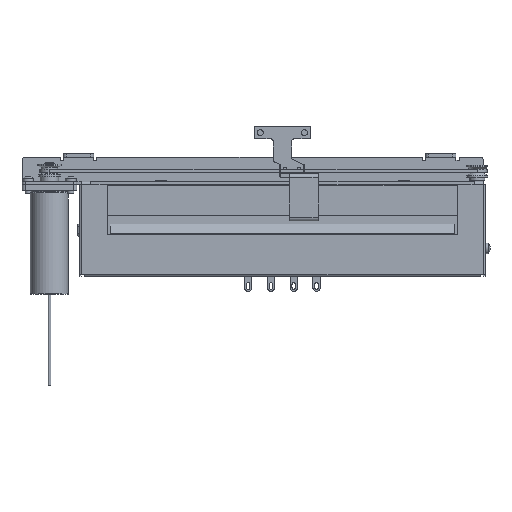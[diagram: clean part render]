
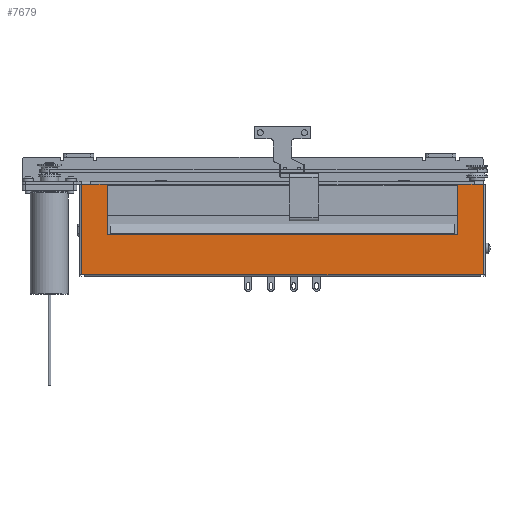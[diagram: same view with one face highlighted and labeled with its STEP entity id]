
A CAD part, front view. The second image highlights one B-rep face of the part: STEP entity #7679.
In plain terms, the highlighted planar face has unit normal (0, -1, 0).
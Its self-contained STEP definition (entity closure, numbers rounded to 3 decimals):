
#3459 = VERTEX_POINT('',#3460);
#3460 = CARTESIAN_POINT('',(-56.5,-7.5,-26.6));
#3547 = VERTEX_POINT('',#3548);
#3548 = CARTESIAN_POINT('',(56.5,-7.5,-26.6));
#4911 = VERTEX_POINT('',#4912);
#4912 = CARTESIAN_POINT('',(-57.5,-7.5,-26.6));
#4918 = EDGE_CURVE('',#3459,#4911,#4919,.T.);
#4919 = LINE('',#4920,#4921);
#4920 = CARTESIAN_POINT('',(-61.75,-7.5,-26.6));
#4921 = VECTOR('',#4922,1.);
#4922 = DIRECTION('',(-1.,-0.,0.));
#4935 = EDGE_CURVE('',#3547,#3459,#4936,.T.);
#4936 = LINE('',#4937,#4938);
#4937 = CARTESIAN_POINT('',(56.5,-7.5,-26.6));
#4938 = VECTOR('',#4939,1.);
#4939 = DIRECTION('',(-1.,-0.,0.));
#4950 = VERTEX_POINT('',#4951);
#4951 = CARTESIAN_POINT('',(57.5,-7.5,-26.6));
#4959 = EDGE_CURVE('',#4950,#3547,#4960,.T.);
#4960 = LINE('',#4961,#4962);
#4961 = CARTESIAN_POINT('',(-61.75,-7.5,-26.6));
#4962 = VECTOR('',#4963,1.);
#4963 = DIRECTION('',(-1.,-0.,0.));
#6375 = VERTEX_POINT('',#6376);
#6376 = CARTESIAN_POINT('',(-66.,-7.5,-10.));
#6385 = EDGE_CURVE('',#6375,#6386,#6388,.T.);
#6386 = VERTEX_POINT('',#6387);
#6387 = CARTESIAN_POINT('',(-57.5,-7.5,-10.));
#6388 = LINE('',#6389,#6390);
#6389 = CARTESIAN_POINT('',(-66.,-7.5,-10.));
#6390 = VECTOR('',#6391,1.);
#6391 = DIRECTION('',(1.,0.,0.));
#6439 = EDGE_CURVE('',#4911,#6386,#6440,.T.);
#6440 = LINE('',#6441,#6442);
#6441 = CARTESIAN_POINT('',(-57.5,-7.5,-33.1));
#6442 = VECTOR('',#6443,1.);
#6443 = DIRECTION('',(0.,0.,1.));
#6456 = VERTEX_POINT('',#6457);
#6457 = CARTESIAN_POINT('',(57.5,-7.5,-10.));
#6463 = EDGE_CURVE('',#4950,#6456,#6464,.T.);
#6464 = LINE('',#6465,#6466);
#6465 = CARTESIAN_POINT('',(57.5,-7.5,-33.1));
#6466 = VECTOR('',#6467,1.);
#6467 = DIRECTION('',(0.,0.,1.));
#6479 = EDGE_CURVE('',#6456,#6480,#6482,.T.);
#6480 = VERTEX_POINT('',#6481);
#6481 = CARTESIAN_POINT('',(66.,-7.5,-10.));
#6482 = LINE('',#6483,#6484);
#6483 = CARTESIAN_POINT('',(-66.,-7.5,-10.));
#6484 = VECTOR('',#6485,1.);
#6485 = DIRECTION('',(1.,0.,0.));
#6770 = VERTEX_POINT('',#6771);
#6771 = CARTESIAN_POINT('',(66.,-7.5,-39.6));
#6778 = EDGE_CURVE('',#6779,#6770,#6781,.T.);
#6779 = VERTEX_POINT('',#6780);
#6780 = CARTESIAN_POINT('',(65.,-7.5,-39.6));
#6781 = LINE('',#6782,#6783);
#6782 = CARTESIAN_POINT('',(-66.,-7.5,-39.6));
#6783 = VECTOR('',#6784,1.);
#6784 = DIRECTION('',(1.,0.,0.));
#6895 = VERTEX_POINT('',#6896);
#6896 = CARTESIAN_POINT('',(-66.,-7.5,-39.6));
#6913 = VERTEX_POINT('',#6914);
#6914 = CARTESIAN_POINT('',(-65.,-7.5,-39.6));
#6920 = EDGE_CURVE('',#6895,#6913,#6921,.T.);
#6921 = LINE('',#6922,#6923);
#6922 = CARTESIAN_POINT('',(-66.,-7.5,-39.6));
#6923 = VECTOR('',#6924,1.);
#6924 = DIRECTION('',(1.,0.,0.));
#7679 = ADVANCED_FACE('',(#7680),#7709,.T.);
#7680 = FACE_BOUND('',#7681,.T.);
#7681 = EDGE_LOOP('',(#7682,#7683,#7689,#7690,#7696,#7697,#7703,#7704,
    #7705,#7706,#7707,#7708));
#7682 = ORIENTED_EDGE('',*,*,#6385,.F.);
#7683 = ORIENTED_EDGE('',*,*,#7684,.F.);
#7684 = EDGE_CURVE('',#6895,#6375,#7685,.T.);
#7685 = LINE('',#7686,#7687);
#7686 = CARTESIAN_POINT('',(-66.,-7.5,-39.6));
#7687 = VECTOR('',#7688,1.);
#7688 = DIRECTION('',(0.,0.,1.));
#7689 = ORIENTED_EDGE('',*,*,#6920,.T.);
#7690 = ORIENTED_EDGE('',*,*,#7691,.T.);
#7691 = EDGE_CURVE('',#6913,#6779,#7692,.T.);
#7692 = LINE('',#7693,#7694);
#7693 = CARTESIAN_POINT('',(-65.,-7.5,-39.6));
#7694 = VECTOR('',#7695,1.);
#7695 = DIRECTION('',(1.,0.,0.));
#7696 = ORIENTED_EDGE('',*,*,#6778,.T.);
#7697 = ORIENTED_EDGE('',*,*,#7698,.T.);
#7698 = EDGE_CURVE('',#6770,#6480,#7699,.T.);
#7699 = LINE('',#7700,#7701);
#7700 = CARTESIAN_POINT('',(66.,-7.5,-39.6));
#7701 = VECTOR('',#7702,1.);
#7702 = DIRECTION('',(0.,0.,1.));
#7703 = ORIENTED_EDGE('',*,*,#6479,.F.);
#7704 = ORIENTED_EDGE('',*,*,#6463,.F.);
#7705 = ORIENTED_EDGE('',*,*,#4959,.T.);
#7706 = ORIENTED_EDGE('',*,*,#4935,.T.);
#7707 = ORIENTED_EDGE('',*,*,#4918,.T.);
#7708 = ORIENTED_EDGE('',*,*,#6439,.T.);
#7709 = PLANE('',#7710);
#7710 = AXIS2_PLACEMENT_3D('',#7711,#7712,#7713);
#7711 = CARTESIAN_POINT('',(-66.,-7.5,-39.6));
#7712 = DIRECTION('',(0.,-1.,0.));
#7713 = DIRECTION('',(1.,0.,0.));
